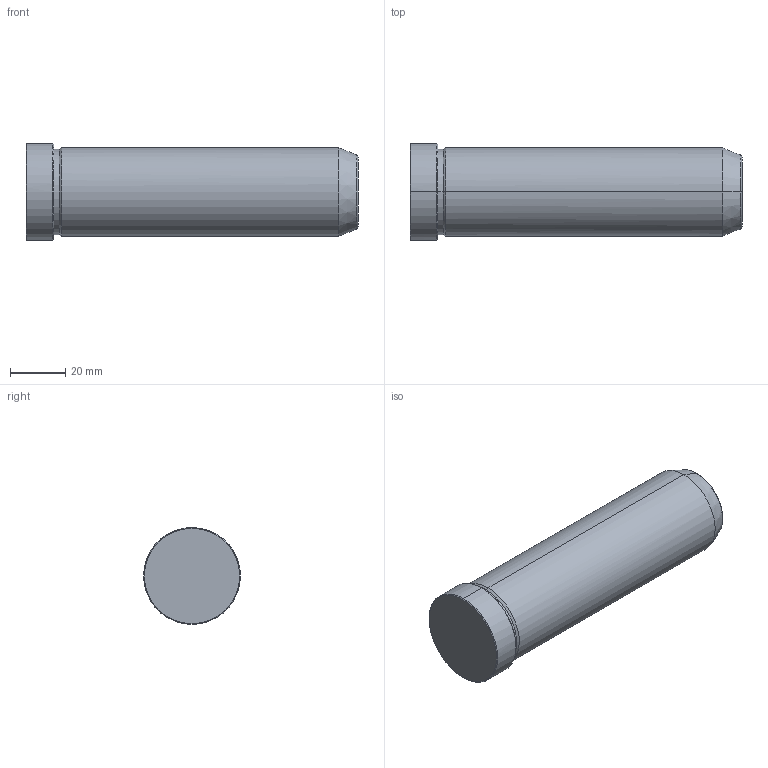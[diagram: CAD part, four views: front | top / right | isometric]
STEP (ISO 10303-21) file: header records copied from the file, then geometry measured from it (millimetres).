
FILE_DESCRIPTION(('CATIA V5 STEP Exchange'),'2;1');
FILE_NAME('C:\Users\Utente\Desktop\IO LAVORO\3D X SITO CF\X SITO\PLASTICA\549\549-32X120.stp','2021-12-18T08:08:32+00:00',('none'),('none'),'CATIA Version 5 Release 20 GA (IN-10)','CATIA V5 STEP AP203','none');
FILE_SCHEMA(('CONFIG_CONTROL_DESIGN'));
Length unit declared in the file: millimetre
Products named in the file (1): 549-32X120
Bounding box: 120 x 35 x 35 mm (x, y, z)
Volume: 97014.9 mm3; surface area: 13813.8 mm2
Topology: 1 solids, 1 shells, 19 faces, 56 edges, 40 vertices
Faces by surface type: cone 8, cylinder 6, plane 3, torus 2
Entity records: 736 total; most frequent: CARTESIAN_POINT 192, ORIENTED_EDGE 112, DIRECTION 86, EDGE_CURVE 56, AXIS2_PLACEMENT_3D 54, VERTEX_POINT 40, CIRCLE 34, EDGE_LOOP 20
